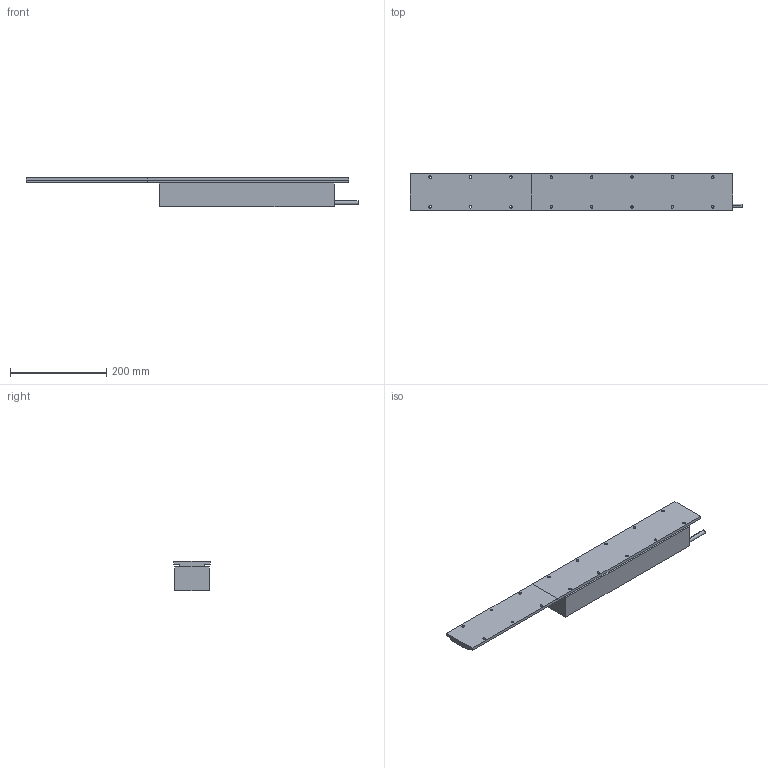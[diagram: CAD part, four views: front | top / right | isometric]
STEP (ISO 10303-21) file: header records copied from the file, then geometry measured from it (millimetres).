
FILE_DESCRIPTION (( 'STEP AP214' ), '1' );
FILE_NAME ('FLM-71-364蚾饜极.STEP', '2022-05-12T08:03:19', ( 'Microsoft' ), ( 'Microsoft' ), 'SwSTEP 2.0', 'SolidWorks 2016', '' );
FILE_SCHEMA (( 'AUTOMOTIVE_DESIGN' ));
Length unit declared in the file: millimetre
Products named in the file (4): FLM-71-364; FLM-71-364蚾饜极; TLM-75-L420; TLM-75-L252
Assembly tree (3 placements, depth 2):
  FLM-71-364蚾饜极
    FLM-71-364
    TLM-75-L420
    TLM-75-L252
Bounding box: 690.9 x 75 x 61.1 mm (x, y, z)
Volume: 1738691.1 mm3; surface area: 216904.6 mm2
Topology: 3 solids, 3 shells, 253 faces, 594 edges, 340 vertices
Faces by surface type: cylinder 114, cone 96, plane 43
Entity records: 7646 total; most frequent: DIRECTION 1340, CARTESIAN_POINT 1145, ORIENTED_EDGE 1092, EDGE_CURVE 546, AXIS2_PLACEMENT_3D 535, VERTEX_POINT 340, EDGE_LOOP 326, CIRCLE 276
